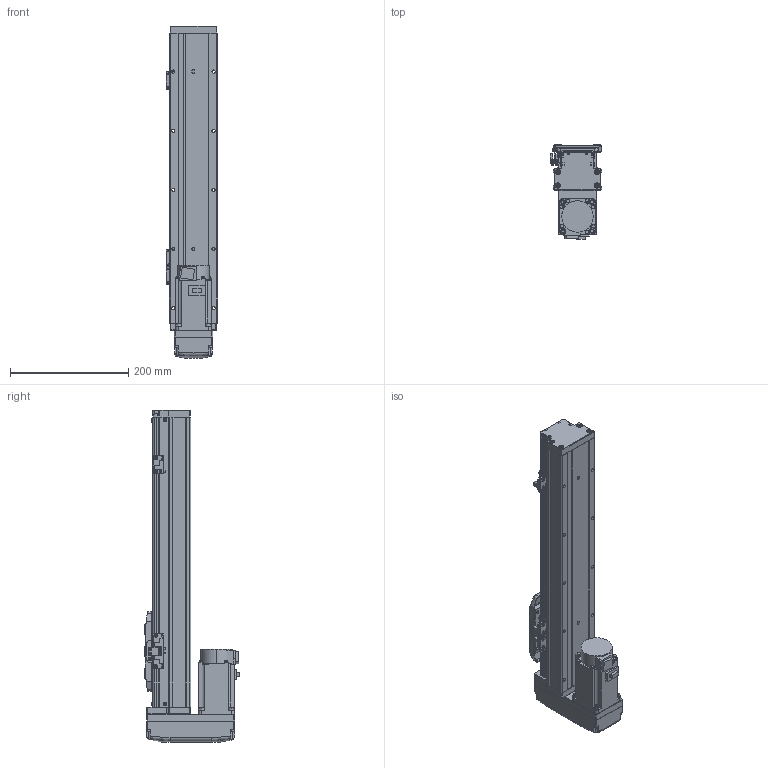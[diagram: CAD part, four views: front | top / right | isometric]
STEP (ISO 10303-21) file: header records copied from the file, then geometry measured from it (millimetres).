
FILE_DESCRIPTION (( 'STEP AP203' ), '1' );
FILE_NAME ('GTH8-300-BM-M20-C4.step', '2022-09-23T01:04:47', ( '微软用户' ), ( '微软中国' ), 'SwSTEP 2.0', 'SolidWorks 2020', '' );
FILE_SCHEMA (( 'CONFIG_CONTROL_DESIGN' ));
Length unit declared in the file: millimetre
Products named in the file (18): GTH80-003; GTH50-023; GTH80-004; GBT96.1-2002 3×0.8; GTH80-006; BTH-M3X5X6; GTH80-013; hg-kn43j_-s100_; GBT 70.1-M4×16; GBT 70.3-M3℅6; CTHA86-015-1_CTHA86-015-2; GTH80-028; GTH80-022; CTHA86-033_M40B; GTH80-001_300; GTH50-024; GBT 70.1-M3℅6; GTH8-300-BM-M20-C4
Assembly tree (57 placements, depth 2):
  GTH8-300-BM-M20-C4
    GTH80-001_300
    GTH80-003
    GTH80-004
    GTH80-006
    GTH80-013
    GBT 70.3-M3℅6  x4
    GTH80-022
    GBT 70.1-M3℅6  x14
    GBT 70.1-M4×16  x8
    GTH80-028  x2
    GTH50-024  x3
    GTH50-023  x3
    GBT96.1-2002 3×0.8  x6
    BTH-M3X5X6  x8
    hg-kn43j_-s100_
    CTHA86-015-1_CTHA86-015-2
    CTHA86-033_M40B
Bounding box: 86.9 x 160.3 x 561 mm (x, y, z)
Volume: 3113433.1 mm3; surface area: 362541.6 mm2
Topology: 59 solids, 59 shells, 2228 faces, 5139 edges, 3147 vertices
Faces by surface type: plane 1187, cylinder 599, cone 260, torus 166, bspline 8, sphere 8
Entity records: 40478 total; most frequent: CARTESIAN_POINT 7121, DIRECTION 6565, ORIENTED_EDGE 6096, EDGE_CURVE 3048, AXIS2_PLACEMENT_3D 2289, VECTOR 1987, LINE 1987, VERTEX_POINT 1922
